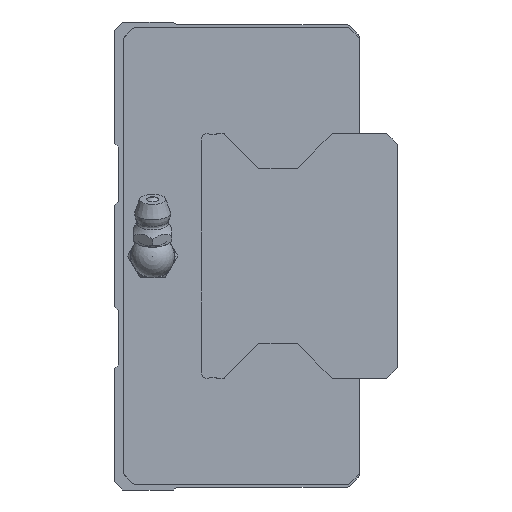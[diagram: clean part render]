
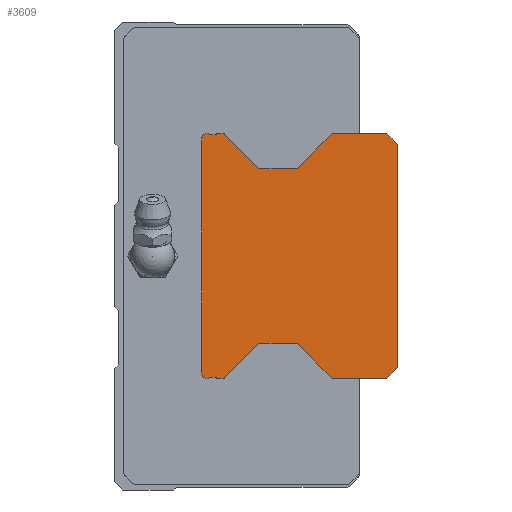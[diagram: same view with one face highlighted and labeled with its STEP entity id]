
A CAD part, left-side view. The second image highlights one B-rep face of the part: STEP entity #3609.
In plain terms, the highlighted planar face has unit normal (-1, 0, 0).
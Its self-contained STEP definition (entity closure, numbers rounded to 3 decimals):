
#99=CIRCLE('',#3840,0.3);
#101=CIRCLE('',#3844,0.3);
#103=CIRCLE('',#3848,0.3);
#116=CIRCLE('',#3869,0.3);
#118=CIRCLE('',#3873,0.3);
#120=CIRCLE('',#3877,0.3);
#122=CIRCLE('',#3881,0.3);
#124=CIRCLE('',#3886,1.);
#137=CIRCLE('',#3901,1.);
#139=CIRCLE('',#3906,0.3);
#474=ORIENTED_EDGE('',*,*,#1304,.F.);
#475=ORIENTED_EDGE('',*,*,#1408,.F.);
#476=ORIENTED_EDGE('',*,*,#1405,.F.);
#477=ORIENTED_EDGE('',*,*,#1402,.F.);
#478=ORIENTED_EDGE('',*,*,#1399,.F.);
#479=ORIENTED_EDGE('',*,*,#1396,.F.);
#480=ORIENTED_EDGE('',*,*,#1382,.F.);
#481=ORIENTED_EDGE('',*,*,#1379,.F.);
#482=ORIENTED_EDGE('',*,*,#1376,.F.);
#483=ORIENTED_EDGE('',*,*,#1373,.F.);
#484=ORIENTED_EDGE('',*,*,#1370,.F.);
#485=ORIENTED_EDGE('',*,*,#1367,.F.);
#486=ORIENTED_EDGE('',*,*,#1364,.F.);
#487=ORIENTED_EDGE('',*,*,#1361,.T.);
#488=ORIENTED_EDGE('',*,*,#1358,.F.);
#489=ORIENTED_EDGE('',*,*,#1355,.T.);
#490=ORIENTED_EDGE('',*,*,#1352,.F.);
#491=ORIENTED_EDGE('',*,*,#1349,.F.);
#492=ORIENTED_EDGE('',*,*,#1346,.F.);
#493=ORIENTED_EDGE('',*,*,#1343,.F.);
#494=ORIENTED_EDGE('',*,*,#1329,.F.);
#495=ORIENTED_EDGE('',*,*,#1326,.F.);
#496=ORIENTED_EDGE('',*,*,#1323,.F.);
#497=ORIENTED_EDGE('',*,*,#1320,.T.);
#498=ORIENTED_EDGE('',*,*,#1317,.F.);
#499=ORIENTED_EDGE('',*,*,#1314,.T.);
#500=ORIENTED_EDGE('',*,*,#1311,.F.);
#501=ORIENTED_EDGE('',*,*,#1308,.F.);
#1304=EDGE_CURVE('',#1800,#1801,#2165,.T.);
#1308=EDGE_CURVE('',#1801,#1804,#99,.T.);
#1311=EDGE_CURVE('',#1804,#1806,#2170,.T.);
#1314=EDGE_CURVE('',#1808,#1806,#101,.T.);
#1317=EDGE_CURVE('',#1808,#1810,#2174,.T.);
#1320=EDGE_CURVE('',#1812,#1810,#103,.T.);
#1323=EDGE_CURVE('',#1812,#1814,#2178,.T.);
#1326=EDGE_CURVE('',#1814,#1816,#2181,.T.);
#1329=EDGE_CURVE('',#1816,#1818,#2184,.T.);
#1343=EDGE_CURVE('',#1818,#1831,#2187,.T.);
#1346=EDGE_CURVE('',#1831,#1833,#2190,.T.);
#1349=EDGE_CURVE('',#1833,#1835,#2193,.T.);
#1352=EDGE_CURVE('',#1835,#1837,#2196,.T.);
#1355=EDGE_CURVE('',#1839,#1837,#116,.T.);
#1358=EDGE_CURVE('',#1839,#1841,#2200,.T.);
#1361=EDGE_CURVE('',#1843,#1841,#118,.T.);
#1364=EDGE_CURVE('',#1843,#1845,#2204,.T.);
#1367=EDGE_CURVE('',#1845,#1847,#120,.T.);
#1370=EDGE_CURVE('',#1847,#1849,#2208,.T.);
#1373=EDGE_CURVE('',#1849,#1851,#122,.T.);
#1376=EDGE_CURVE('',#1851,#1853,#2212,.T.);
#1379=EDGE_CURVE('',#1853,#1855,#2215,.T.);
#1382=EDGE_CURVE('',#1855,#1857,#124,.T.);
#1396=EDGE_CURVE('',#1857,#1870,#2219,.T.);
#1399=EDGE_CURVE('',#1870,#1872,#137,.T.);
#1402=EDGE_CURVE('',#1872,#1874,#2223,.T.);
#1405=EDGE_CURVE('',#1874,#1876,#2226,.T.);
#1408=EDGE_CURVE('',#1876,#1800,#139,.T.);
#1800=VERTEX_POINT('',#5291);
#1801=VERTEX_POINT('',#5292);
#1804=VERTEX_POINT('',#5300);
#1806=VERTEX_POINT('',#5306);
#1808=VERTEX_POINT('',#5312);
#1810=VERTEX_POINT('',#5318);
#1812=VERTEX_POINT('',#5324);
#1814=VERTEX_POINT('',#5330);
#1816=VERTEX_POINT('',#5336);
#1818=VERTEX_POINT('',#5342);
#1831=VERTEX_POINT('',#5370);
#1833=VERTEX_POINT('',#5376);
#1835=VERTEX_POINT('',#5382);
#1837=VERTEX_POINT('',#5388);
#1839=VERTEX_POINT('',#5394);
#1841=VERTEX_POINT('',#5400);
#1843=VERTEX_POINT('',#5406);
#1845=VERTEX_POINT('',#5412);
#1847=VERTEX_POINT('',#5418);
#1849=VERTEX_POINT('',#5424);
#1851=VERTEX_POINT('',#5430);
#1853=VERTEX_POINT('',#5436);
#1855=VERTEX_POINT('',#5442);
#1857=VERTEX_POINT('',#5448);
#1870=VERTEX_POINT('',#5476);
#1872=VERTEX_POINT('',#5482);
#1874=VERTEX_POINT('',#5488);
#1876=VERTEX_POINT('',#5494);
#2165=LINE('',#5290,#2485);
#2170=LINE('',#5305,#2490);
#2174=LINE('',#5317,#2494);
#2178=LINE('',#5329,#2498);
#2181=LINE('',#5335,#2501);
#2184=LINE('',#5341,#2504);
#2187=LINE('',#5369,#2507);
#2190=LINE('',#5375,#2510);
#2193=LINE('',#5381,#2513);
#2196=LINE('',#5387,#2516);
#2200=LINE('',#5399,#2520);
#2204=LINE('',#5411,#2524);
#2208=LINE('',#5423,#2528);
#2212=LINE('',#5435,#2532);
#2215=LINE('',#5441,#2535);
#2219=LINE('',#5475,#2539);
#2223=LINE('',#5487,#2543);
#2226=LINE('',#5493,#2546);
#2485=VECTOR('',#4218,1000.);
#2490=VECTOR('',#4231,1000.);
#2494=VECTOR('',#4243,1000.);
#2498=VECTOR('',#4255,1000.);
#2501=VECTOR('',#4260,1000.);
#2504=VECTOR('',#4265,1000.);
#2507=VECTOR('',#4292,1000.);
#2510=VECTOR('',#4297,1000.);
#2513=VECTOR('',#4302,1000.);
#2516=VECTOR('',#4307,1000.);
#2520=VECTOR('',#4319,1000.);
#2524=VECTOR('',#4331,1000.);
#2528=VECTOR('',#4343,1000.);
#2532=VECTOR('',#4355,1000.);
#2535=VECTOR('',#4360,1000.);
#2539=VECTOR('',#4394,1000.);
#2543=VECTOR('',#4406,1000.);
#2546=VECTOR('',#4411,1000.);
#2856=EDGE_LOOP('',(#474,#475,#476,#477,#478,#479,#480,#481,#482,#483,#484,
#485,#486,#487,#488,#489,#490,#491,#492,#493,#494,#495,#496,#497,#498,#499,
#500,#501));
#3175=FACE_BOUND('',#2856,.T.);
#3470=PLANE('',#3909);
#3609=ADVANCED_FACE('',(#3175),#3470,.F.);
#3840=AXIS2_PLACEMENT_3D('',#5299,#4224,#4225);
#3844=AXIS2_PLACEMENT_3D('',#5311,#4236,#4237);
#3848=AXIS2_PLACEMENT_3D('',#5323,#4248,#4249);
#3869=AXIS2_PLACEMENT_3D('',#5393,#4312,#4313);
#3873=AXIS2_PLACEMENT_3D('',#5405,#4324,#4325);
#3877=AXIS2_PLACEMENT_3D('',#5417,#4336,#4337);
#3881=AXIS2_PLACEMENT_3D('',#5429,#4348,#4349);
#3886=AXIS2_PLACEMENT_3D('',#5447,#4365,#4366);
#3901=AXIS2_PLACEMENT_3D('',#5481,#4399,#4400);
#3906=AXIS2_PLACEMENT_3D('',#5499,#4416,#4417);
#3909=AXIS2_PLACEMENT_3D('',#5502,#4422,#4423);
#4218=DIRECTION('',(0.,-1.,0.));
#4224=DIRECTION('',(1.,0.,0.));
#4225=DIRECTION('',(0.,0.,-1.));
#4231=DIRECTION('',(0.,-0.707,-0.707));
#4236=DIRECTION('',(1.,0.,0.));
#4237=DIRECTION('',(0.,0.,-1.));
#4243=DIRECTION('',(0.,-1.,0.));
#4248=DIRECTION('',(1.,0.,0.));
#4249=DIRECTION('',(0.,0.,-1.));
#4255=DIRECTION('',(0.,-0.707,0.707));
#4260=DIRECTION('',(0.,-1.,0.));
#4265=DIRECTION('',(0.,-0.707,-0.707));
#4292=DIRECTION('',(0.,0.,-1.));
#4297=DIRECTION('',(0.,0.707,-0.707));
#4302=DIRECTION('',(0.,1.,0.));
#4307=DIRECTION('',(0.,0.707,0.707));
#4312=DIRECTION('',(1.,0.,0.));
#4313=DIRECTION('',(0.,0.,-1.));
#4319=DIRECTION('',(0.,1.,0.));
#4324=DIRECTION('',(1.,0.,0.));
#4325=DIRECTION('',(0.,0.,-1.));
#4331=DIRECTION('',(0.,0.707,-0.707));
#4336=DIRECTION('',(1.,0.,0.));
#4337=DIRECTION('',(0.,0.,-1.));
#4343=DIRECTION('',(0.,1.,0.));
#4348=DIRECTION('',(1.,0.,0.));
#4349=DIRECTION('',(0.,0.,-1.));
#4355=DIRECTION('',(0.,0.707,0.707));
#4360=DIRECTION('',(0.,1.,0.));
#4365=DIRECTION('',(1.,0.,0.));
#4366=DIRECTION('',(0.,0.,-1.));
#4394=DIRECTION('',(0.,0.,1.));
#4399=DIRECTION('',(1.,0.,0.));
#4400=DIRECTION('',(0.,0.,-1.));
#4406=DIRECTION('',(0.,-1.,0.));
#4411=DIRECTION('',(0.,-0.707,0.707));
#4416=DIRECTION('',(1.,0.,0.));
#4417=DIRECTION('',(0.,0.,-1.));
#4422=DIRECTION('',(1.,0.,0.));
#4423=DIRECTION('',(0.,0.,-1.));
#5290=CARTESIAN_POINT('',(-22.5,33.126,22.5));
#5291=CARTESIAN_POINT('',(-22.5,33.126,22.5));
#5292=CARTESIAN_POINT('',(-22.5,32.024,22.5));
#5299=CARTESIAN_POINT('',(-22.5,32.024,22.2));
#5300=CARTESIAN_POINT('',(-22.5,31.812,22.412));
#5305=CARTESIAN_POINT('',(-22.5,31.812,22.412));
#5306=CARTESIAN_POINT('',(-22.5,25.488,16.088));
#5311=CARTESIAN_POINT('',(-22.5,25.276,16.3));
#5312=CARTESIAN_POINT('',(-22.5,25.276,16.));
#5317=CARTESIAN_POINT('',(-22.5,25.276,16.));
#5318=CARTESIAN_POINT('',(-22.5,18.624,16.));
#5323=CARTESIAN_POINT('',(-22.5,18.624,16.3));
#5324=CARTESIAN_POINT('',(-22.5,18.412,16.088));
#5329=CARTESIAN_POINT('',(-22.5,18.412,16.088));
#5330=CARTESIAN_POINT('',(-22.5,12.,22.5));
#5335=CARTESIAN_POINT('',(-22.5,12.,22.5));
#5336=CARTESIAN_POINT('',(-22.5,2.,22.5));
#5341=CARTESIAN_POINT('',(-22.5,2.,22.5));
#5342=CARTESIAN_POINT('',(-22.5,0.,20.5));
#5369=CARTESIAN_POINT('',(-22.5,0.,20.5));
#5370=CARTESIAN_POINT('',(-22.5,0.,-20.5));
#5375=CARTESIAN_POINT('',(-22.5,0.,-20.5));
#5376=CARTESIAN_POINT('',(-22.5,2.,-22.5));
#5381=CARTESIAN_POINT('',(-22.5,2.,-22.5));
#5382=CARTESIAN_POINT('',(-22.5,12.,-22.5));
#5387=CARTESIAN_POINT('',(-22.5,12.,-22.5));
#5388=CARTESIAN_POINT('',(-22.5,18.412,-16.088));
#5393=CARTESIAN_POINT('',(-22.5,18.624,-16.3));
#5394=CARTESIAN_POINT('',(-22.5,18.624,-16.));
#5399=CARTESIAN_POINT('',(-22.5,18.624,-16.));
#5400=CARTESIAN_POINT('',(-22.5,25.276,-16.));
#5405=CARTESIAN_POINT('',(-22.5,25.276,-16.3));
#5406=CARTESIAN_POINT('',(-22.5,25.488,-16.088));
#5411=CARTESIAN_POINT('',(-22.5,25.488,-16.088));
#5412=CARTESIAN_POINT('',(-22.5,31.812,-22.412));
#5417=CARTESIAN_POINT('',(-22.5,32.024,-22.2));
#5418=CARTESIAN_POINT('',(-22.5,32.024,-22.5));
#5423=CARTESIAN_POINT('',(-22.5,32.024,-22.5));
#5424=CARTESIAN_POINT('',(-22.5,33.126,-22.5));
#5429=CARTESIAN_POINT('',(-22.5,33.126,-22.2));
#5430=CARTESIAN_POINT('',(-22.5,33.338,-22.412));
#5435=CARTESIAN_POINT('',(-22.5,33.338,-22.412));
#5436=CARTESIAN_POINT('',(-22.5,33.5,-22.25));
#5441=CARTESIAN_POINT('',(-22.5,33.5,-22.25));
#5442=CARTESIAN_POINT('',(-22.5,34.339,-22.25));
#5447=CARTESIAN_POINT('',(-22.5,35.,-21.5));
#5448=CARTESIAN_POINT('',(-22.5,36.,-21.5));
#5475=CARTESIAN_POINT('',(-22.5,36.,-21.5));
#5476=CARTESIAN_POINT('',(-22.5,36.,21.5));
#5481=CARTESIAN_POINT('',(-22.5,35.,21.5));
#5482=CARTESIAN_POINT('',(-22.5,34.339,22.25));
#5487=CARTESIAN_POINT('',(-22.5,34.339,22.25));
#5488=CARTESIAN_POINT('',(-22.5,33.5,22.25));
#5493=CARTESIAN_POINT('',(-22.5,33.5,22.25));
#5494=CARTESIAN_POINT('',(-22.5,33.338,22.412));
#5499=CARTESIAN_POINT('',(-22.5,33.126,22.2));
#5502=CARTESIAN_POINT('',(-22.5,32.024,22.2));
